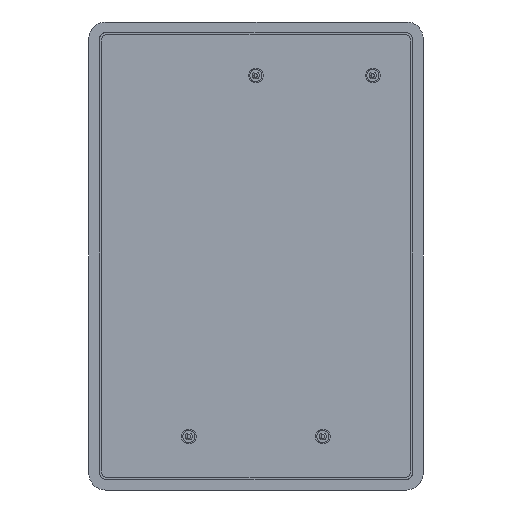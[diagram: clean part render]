
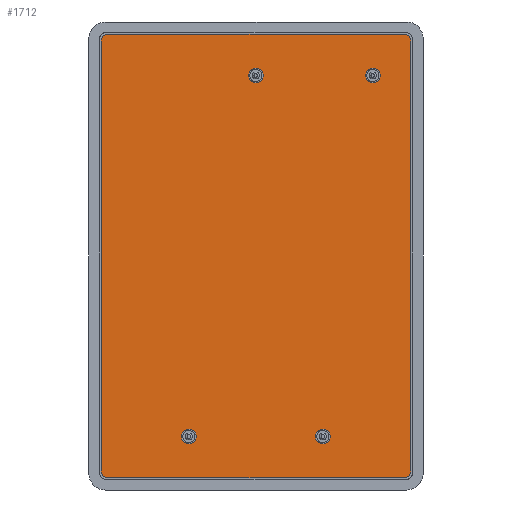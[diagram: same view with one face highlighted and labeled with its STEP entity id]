
A CAD part, front view. The second image highlights one B-rep face of the part: STEP entity #1712.
In plain terms, the highlighted planar face has unit normal (0, -1, 0) as drawn and (0, 0, 1) by its records, which use the part's own axes.
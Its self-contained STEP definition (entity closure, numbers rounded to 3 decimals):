
#1294=CARTESIAN_POINT('',(14.033,-6.49,0.5));
#1295=VERTEX_POINT('',#1294);
#1296=CARTESIAN_POINT('',(12.933,-6.49,0.5));
#1297=DIRECTION('',(0.0,0.0,-1.0));
#1298=DIRECTION('',(-1.0,0.0,0.0));
#1299=AXIS2_PLACEMENT_3D('',#1296,#1297,#1298);
#1300=CIRCLE('',#1299,1.1);
#1301=EDGE_CURVE('',#1295,#1295,#1300,.T.);
#1322=CARTESIAN_POINT('',(-6.007,-6.49,0.5));
#1323=VERTEX_POINT('',#1322);
#1324=CARTESIAN_POINT('',(-7.107,-6.49,0.5));
#1325=DIRECTION('',(0.0,0.0,-1.0));
#1326=DIRECTION('',(-1.0,0.0,0.0));
#1327=AXIS2_PLACEMENT_3D('',#1324,#1325,#1326);
#1328=CIRCLE('',#1327,1.1);
#1329=EDGE_CURVE('',#1323,#1323,#1328,.T.);
#1350=CARTESIAN_POINT('',(4.033,47.51,0.5));
#1351=VERTEX_POINT('',#1350);
#1352=CARTESIAN_POINT('',(2.933,47.51,0.5));
#1353=DIRECTION('',(0.0,0.0,-1.0));
#1354=DIRECTION('',(-1.0,0.0,0.0));
#1355=AXIS2_PLACEMENT_3D('',#1352,#1353,#1354);
#1356=CIRCLE('',#1355,1.1);
#1357=EDGE_CURVE('',#1351,#1351,#1356,.T.);
#1378=CARTESIAN_POINT('',(21.533,47.51,0.5));
#1379=VERTEX_POINT('',#1378);
#1380=CARTESIAN_POINT('',(20.433,47.51,0.5));
#1381=DIRECTION('',(0.0,0.0,-1.0));
#1382=DIRECTION('',(-1.0,0.0,0.0));
#1383=AXIS2_PLACEMENT_3D('',#1380,#1381,#1382);
#1384=CIRCLE('',#1383,1.1);
#1385=EDGE_CURVE('',#1379,#1379,#1384,.T.);
#1406=CARTESIAN_POINT('',(-20.217,52.66,0.5));
#1407=VERTEX_POINT('',#1406);
#1408=CARTESIAN_POINT('',(-19.217,53.66,0.5));
#1409=VERTEX_POINT('',#1408);
#1410=CARTESIAN_POINT('',(-19.217,52.66,0.5));
#1411=DIRECTION('',(0.0,0.0,-1.0));
#1412=DIRECTION('',(0.0,1.0,0.0));
#1413=AXIS2_PLACEMENT_3D('',#1410,#1411,#1412);
#1414=CIRCLE('',#1413,1.0);
#1415=EDGE_CURVE('',#1407,#1409,#1414,.T.);
#1448=CARTESIAN_POINT('',(25.083,53.66,0.5));
#1449=VERTEX_POINT('',#1448);
#1450=CARTESIAN_POINT('',(-19.217,53.66,0.5));
#1451=DIRECTION('',(1.0,0.0,0.0));
#1452=VECTOR('',#1451,44.3);
#1453=LINE('',#1450,#1452);
#1454=EDGE_CURVE('',#1409,#1449,#1453,.T.);
#1479=CARTESIAN_POINT('',(26.083,52.66,0.5));
#1480=VERTEX_POINT('',#1479);
#1481=CARTESIAN_POINT('',(25.083,52.66,0.5));
#1482=DIRECTION('',(0.0,0.0,-1.0));
#1483=DIRECTION('',(1.0,0.0,0.0));
#1484=AXIS2_PLACEMENT_3D('',#1481,#1482,#1483);
#1485=CIRCLE('',#1484,1.0);
#1486=EDGE_CURVE('',#1449,#1480,#1485,.T.);
#1512=CARTESIAN_POINT('',(26.083,-11.64,0.5));
#1513=VERTEX_POINT('',#1512);
#1514=CARTESIAN_POINT('',(26.083,52.66,0.5));
#1515=DIRECTION('',(0.0,-1.0,0.0));
#1516=VECTOR('',#1515,64.3);
#1517=LINE('',#1514,#1516);
#1518=EDGE_CURVE('',#1480,#1513,#1517,.T.);
#1543=CARTESIAN_POINT('',(25.083,-12.64,0.5));
#1544=VERTEX_POINT('',#1543);
#1545=CARTESIAN_POINT('',(25.083,-11.64,0.5));
#1546=DIRECTION('',(0.0,0.0,-1.0));
#1547=DIRECTION('',(0.0,-1.0,0.0));
#1548=AXIS2_PLACEMENT_3D('',#1545,#1546,#1547);
#1549=CIRCLE('',#1548,1.0);
#1550=EDGE_CURVE('',#1513,#1544,#1549,.T.);
#1576=CARTESIAN_POINT('',(-19.217,-12.64,0.5));
#1577=VERTEX_POINT('',#1576);
#1578=CARTESIAN_POINT('',(25.083,-12.64,0.5));
#1579=DIRECTION('',(-1.0,0.0,0.0));
#1580=VECTOR('',#1579,44.3);
#1581=LINE('',#1578,#1580);
#1582=EDGE_CURVE('',#1544,#1577,#1581,.T.);
#1607=CARTESIAN_POINT('',(-20.217,-11.64,0.5));
#1608=VERTEX_POINT('',#1607);
#1609=CARTESIAN_POINT('',(-19.217,-11.64,0.5));
#1610=DIRECTION('',(0.0,0.0,-1.0));
#1611=DIRECTION('',(-1.0,0.0,0.0));
#1612=AXIS2_PLACEMENT_3D('',#1609,#1610,#1611);
#1613=CIRCLE('',#1612,1.0);
#1614=EDGE_CURVE('',#1577,#1608,#1613,.T.);
#1640=CARTESIAN_POINT('',(-20.217,-11.64,0.5));
#1641=DIRECTION('',(0.0,1.0,0.0));
#1642=VECTOR('',#1641,64.3);
#1643=LINE('',#1640,#1642);
#1644=EDGE_CURVE('',#1608,#1407,#1643,.T.);
#1685=CARTESIAN_POINT('',(2.933,20.51,0.5));
#1686=DIRECTION('',(0.0,0.0,1.0));
#1687=DIRECTION('',(1.0,0.0,0.0));
#1688=AXIS2_PLACEMENT_3D('',#1685,#1686,#1687);
#1689=PLANE('',#1688);
#1690=ORIENTED_EDGE('',*,*,#1415,.F.);
#1691=ORIENTED_EDGE('',*,*,#1644,.F.);
#1692=ORIENTED_EDGE('',*,*,#1614,.F.);
#1693=ORIENTED_EDGE('',*,*,#1582,.F.);
#1694=ORIENTED_EDGE('',*,*,#1550,.F.);
#1695=ORIENTED_EDGE('',*,*,#1518,.F.);
#1696=ORIENTED_EDGE('',*,*,#1486,.F.);
#1697=ORIENTED_EDGE('',*,*,#1454,.F.);
#1698=EDGE_LOOP('',(#1690,#1691,#1692,#1693,#1694,#1695,#1696,#1697));
#1699=FACE_OUTER_BOUND('',#1698,.T.);
#1700=ORIENTED_EDGE('',*,*,#1301,.T.);
#1701=EDGE_LOOP('',(#1700));
#1702=FACE_BOUND('',#1701,.T.);
#1703=ORIENTED_EDGE('',*,*,#1329,.T.);
#1704=EDGE_LOOP('',(#1703));
#1705=FACE_BOUND('',#1704,.T.);
#1706=ORIENTED_EDGE('',*,*,#1357,.T.);
#1707=EDGE_LOOP('',(#1706));
#1708=FACE_BOUND('',#1707,.T.);
#1709=ORIENTED_EDGE('',*,*,#1385,.T.);
#1710=EDGE_LOOP('',(#1709));
#1711=FACE_BOUND('',#1710,.T.);
#1712=ADVANCED_FACE('',(#1699,#1702,#1705,#1708,#1711),#1689,.T.);
